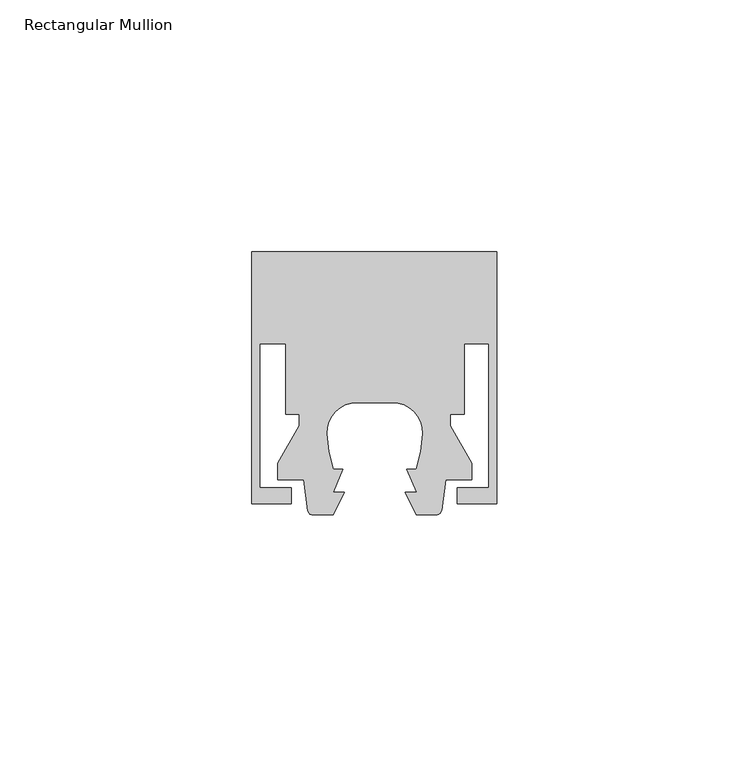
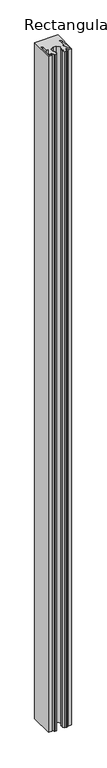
"""IFC4 building model written with IfcOpenShell, lengths in millimetres: member geometry, Rectangular Mullion : Danpal_Airpt."""

from ifc_helpers import new_model, si_unit, point, frame, frame_2d, origin, place, context, project, spatial, polyline, circle_curve, trimmed, segment, composite_curve, outline, extrude, source, transform, mapped, element, save


def rectangular_mullion_6cb43a28(model_context):
    return source(origin(), model_context, "Body", "SweptSolid", [
        extrude(outline(composite_curve([segment(polyline([(-16.6, 16.4), (-24.4, 16.4), (-24.4, 66.4), (24.2, 66.4), (24.2, 16.4), (16.4, 16.4), (16.4, 19.6), (22.6, 19.6), (22.6, 48.2), (17.7185077, 48.2), (17.7185077, 34.2), (14.9766663, 34.2), (14.9766663, 31.9202845), (19.2732051, 24.478461), (19.3, 21.2), (14.115585, 21.2)]), True, "CONTINUOUS"), segment(trimmed(circle_curve(frame_2d((-137.1078499, 38.5534788)), 152.215868), [point((14.115585, 21.2))], [point((13.2922905, 15.1127399))], False, "CARTESIAN"), True, "CONTINUOUS"), segment(trimmed(circle_curve(frame_2d((12.2262756, 15.2788845)), 1.0788845), [point((13.2922905, 15.1127399))], [point((12.2262756, 14.2))], False, "CARTESIAN"), True, "CONTINUOUS"), segment(polyline([(12.2262756, 14.2), (8.2308667, 14.2), (6.0782659, 18.7006239), (8.2858815, 18.7006239), (6.3614697, 23.2699289), (8.2778534, 23.2699289)]), True, "CONTINUOUS"), segment(trimmed(circle_curve(frame_2d((-16.4332098, 31.142799)), 25.9348941), [point((8.2778534, 23.2699289))], [point((9.488241, 30.3078647))], True, "CARTESIAN"), True, "CONTINUOUS"), segment(trimmed(circle_curve(frame_2d((3.5093751, 30.500445)), 5.9819667), [point((9.488241, 30.3078647))], [point((3.5093751, 36.4824117))], True, "CARTESIAN"), True, "CONTINUOUS"), segment(polyline([(3.5093751, 36.4824117), (-3.5093751, 36.4824117)]), True, "CONTINUOUS"), segment(trimmed(circle_curve(frame_2d((-3.5093751, 30.500445)), 5.9819667), [point((-3.5093751, 36.4824117))], [point((-9.488241, 30.3078647))], True, "CARTESIAN"), True, "CONTINUOUS"), segment(trimmed(circle_curve(frame_2d((16.4332098, 31.142799)), 25.9348941), [point((-9.488241, 30.3078647))], [point((-8.2778534, 23.2699289))], True, "CARTESIAN"), True, "CONTINUOUS"), segment(polyline([(-8.2778534, 23.2699289), (-6.3614697, 23.2699289), (-8.2858815, 18.7006239), (-6.0782659, 18.7006239), (-8.2308667, 14.2), (-12.3738214, 14.2)]), True, "CONTINUOUS"), segment(trimmed(circle_curve(frame_2d((-12.3738214, 15.1064765)), 0.9064765), [point((-12.3738214, 14.2))], [point((-13.2693482, 14.9660083))], False, "CARTESIAN"), True, "CONTINUOUS"), segment(trimmed(circle_curve(frame_2d((137.1078499, 38.5534788)), 152.215868), [point((-13.2693482, 14.9660083))], [point((-14.115585, 21.2))], False, "CARTESIAN"), True, "CONTINUOUS"), segment(polyline([(-14.115585, 21.2), (-19.3, 21.2), (-19.2732051, 24.478461), (-14.9766663, 31.9202845), (-14.9766663, 34.2), (-17.7185077, 34.2), (-17.7185077, 48.2), (-22.8, 48.2), (-22.8, 19.6), (-16.6, 19.6), (-16.6, 16.4)]), True, "CONTINUOUS")], self_intersect=False)), frame((0.0, 0.0, -1500.0), z_axis=(0.0, 0.0, 1.0), x_axis=(1.0, 0.0, 0.0)), (0.0, 0.0, 1.0), 1500.0),
    ])


if __name__ == "__main__":
    model = new_model("IFC4")
    model_context = context("Model", 3, world=origin())
    ifc_project = project(units=[si_unit("LENGTHUNIT", "METRE", prefix="MILLI")], contexts=[model_context])
    site = spatial("IfcSite", under=ifc_project)
    building = spatial("IfcBuilding", under=site)
    placement = place(None, origin())
    rectangular_mullion_shape = rectangular_mullion_6cb43a28(model_context)
    element("IfcMember", 1, ObjectType="Rectangular Mullion : Danpal_Airpt", at=placement, inside=building, context=model_context, shape_type="MappedRepresentation", body=[
        mapped(rectangular_mullion_shape, transform((0.0, 0.0, 0.0), x_axis=(1.0, 0.0, 0.0), y_axis=(0.0, 1.0, 0.0), z_axis=(0.0, 0.0, 1.0))),
    ])
    save(model, "model.ifc")
